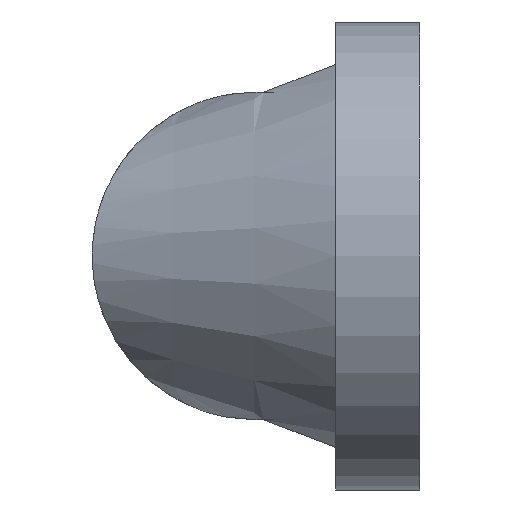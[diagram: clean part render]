
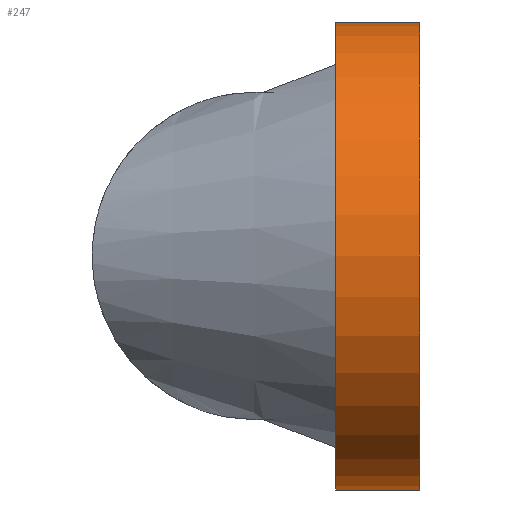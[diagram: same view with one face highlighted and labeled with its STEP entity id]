
A CAD part, left-side view. The second image highlights one B-rep face of the part: STEP entity #247.
In plain terms, the highlighted cylindrical face has radius 10 mm (diameter 20 mm), a partial arc.
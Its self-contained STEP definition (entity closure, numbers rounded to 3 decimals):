
#15 = CARTESIAN_POINT ( 'NONE',  ( -25., 3.6, 10. ) ) ;
#19 = LINE ( 'NONE', #63, #660 ) ;
#29 = FACE_OUTER_BOUND ( 'NONE', #548, .T. ) ;
#43 = CARTESIAN_POINT ( 'NONE',  ( -25., 3.6, 0. ) ) ;
#49 = CYLINDRICAL_SURFACE ( 'NONE', #391, 10. ) ;
#63 = CARTESIAN_POINT ( 'NONE',  ( -25., 3.6, -10. ) ) ;
#78 = DIRECTION ( 'NONE',  ( 0., -1., 0. ) ) ;
#81 = ORIENTED_EDGE ( 'NONE', *, *, #542, .F. ) ;
#119 = VECTOR ( 'NONE', #656, 1000. ) ;
#120 = VERTEX_POINT ( 'NONE', #242 ) ;
#141 = DIRECTION ( 'NONE',  ( 0., -1., 0. ) ) ;
#156 = AXIS2_PLACEMENT_3D ( 'NONE', #387, #78, #444 ) ;
#200 = DIRECTION ( 'NONE',  ( 0., 0., -1. ) ) ;
#232 = CARTESIAN_POINT ( 'NONE',  ( -25., 3.6, 10. ) ) ;
#242 = CARTESIAN_POINT ( 'NONE',  ( -25., 3.6, -10. ) ) ;
#247 = ADVANCED_FACE ( 'NONE', ( #29 ), #49, .T. ) ;
#286 = AXIS2_PLACEMENT_3D ( 'NONE', #287, #668, #337 ) ;
#287 = CARTESIAN_POINT ( 'NONE',  ( -25., 3.6, 0. ) ) ;
#333 = ORIENTED_EDGE ( 'NONE', *, *, #486, .F. ) ;
#337 = DIRECTION ( 'NONE',  ( 0., 0., 1. ) ) ;
#343 = CARTESIAN_POINT ( 'NONE',  ( -25., 0., 10. ) ) ;
#353 = VERTEX_POINT ( 'NONE', #423 ) ;
#372 = DIRECTION ( 'NONE',  ( 0., -1., 0. ) ) ;
#387 = CARTESIAN_POINT ( 'NONE',  ( -25., 0., 0. ) ) ;
#389 = LINE ( 'NONE', #15, #119 ) ;
#391 = AXIS2_PLACEMENT_3D ( 'NONE', #43, #141, #200 ) ;
#412 = EDGE_CURVE ( 'NONE', #120, #353, #19, .T. ) ;
#423 = CARTESIAN_POINT ( 'NONE',  ( -25., 0., -10. ) ) ;
#444 = DIRECTION ( 'NONE',  ( 0., 0., 1. ) ) ;
#447 = ORIENTED_EDGE ( 'NONE', *, *, #412, .T. ) ;
#486 = EDGE_CURVE ( 'NONE', #537, #628, #389, .T. ) ;
#509 = CIRCLE ( 'NONE', #156, 10. ) ;
#537 = VERTEX_POINT ( 'NONE', #232 ) ;
#542 = EDGE_CURVE ( 'NONE', #628, #353, #509, .T. ) ;
#545 = CIRCLE ( 'NONE', #286, 10. ) ;
#548 = EDGE_LOOP ( 'NONE', ( #81, #333, #620, #447 ) ) ;
#555 = EDGE_CURVE ( 'NONE', #537, #120, #545, .T. ) ;
#620 = ORIENTED_EDGE ( 'NONE', *, *, #555, .T. ) ;
#628 = VERTEX_POINT ( 'NONE', #343 ) ;
#656 = DIRECTION ( 'NONE',  ( 0., -1., 0. ) ) ;
#660 = VECTOR ( 'NONE', #372, 1000. ) ;
#668 = DIRECTION ( 'NONE',  ( 0., -1., 0. ) ) ;
